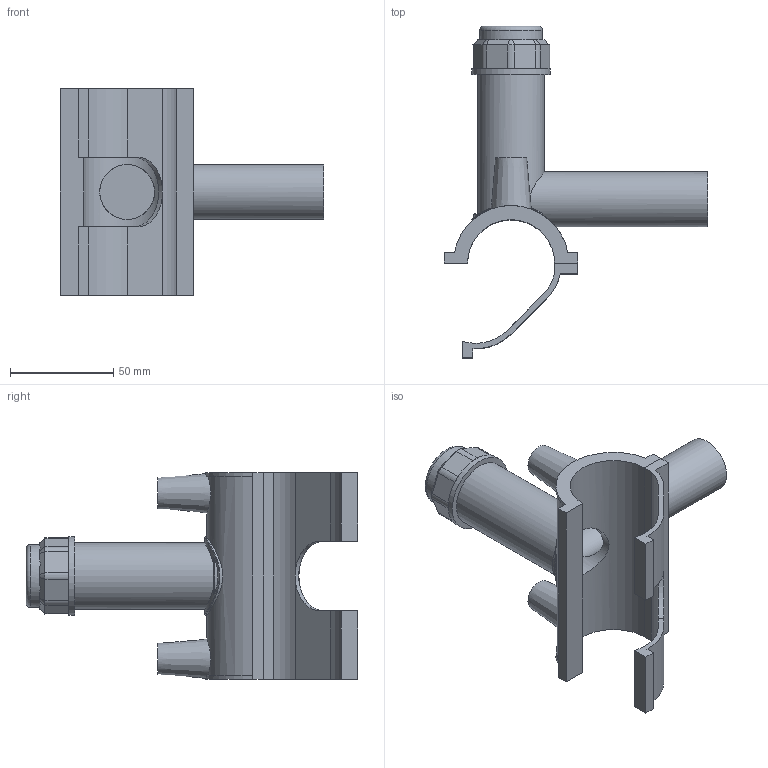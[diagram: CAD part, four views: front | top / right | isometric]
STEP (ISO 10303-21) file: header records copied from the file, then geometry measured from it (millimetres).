
FILE_DESCRIPTION(/* description */ ('PLASSON TAPPING SADDLE 1 1/4''''IPS x 3/4''''IPS'),/* implementation_level */ '2;1');
FILE_NAME(/* name */ 'C:\Dropbox\KIMPROJECTS-Inventor 2019\99-16-3568-Processing Inch\ASTM ElectroFusion 2021\5963B\5963BB03013007.ipt.stp',/* time_stamp */ '2021-08-30T09:54:47+03:00',/* author */ ('KIM'),/* organization */ (''),/* preprocessor_version */ 'ST-DEVELOPER v17.2',/* originating_system */ 'Autodesk Inventor 2019',/* authorisation */ '');
FILE_SCHEMA (('AUTOMOTIVE_DESIGN { 1 0 10303 214 3 1 1 }'));
Length unit declared in the file: millimetre
Products named in the file (1): 5963BB03013007
Bounding box: 127.25 x 160.41 x 100.08 mm (x, y, z)
Volume: 132896.6 mm3; surface area: 64431.1 mm2
Topology: 2 solids, 2 shells, 111 faces, 290 edges, 191 vertices
Faces by surface type: plane 66, cylinder 32, cone 11, torus 1, bspline 1
Full cylindrical faces by diameter (mm): 4 x2, 10 x2, 21.28 x1, 26.523 x1, 26.6 x1, 30.312 x1, 32.206 x1, 37.89 x1
Entity records: 3951 total; most frequent: CARTESIAN_POINT 1148, ORIENTED_EDGE 580, DIRECTION 577, EDGE_CURVE 290, AXIS2_PLACEMENT_3D 210, VERTEX_POINT 191, LINE 157, VECTOR 157
